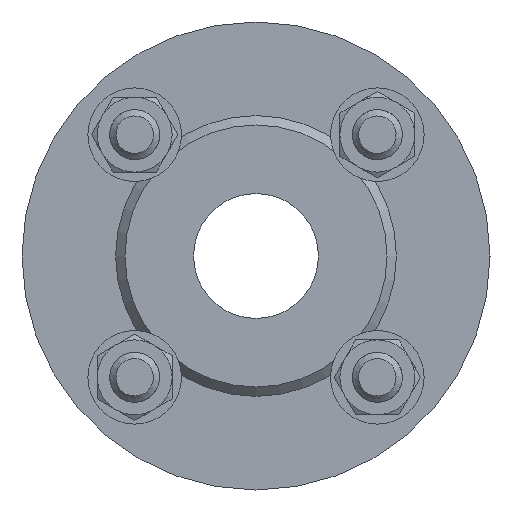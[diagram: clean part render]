
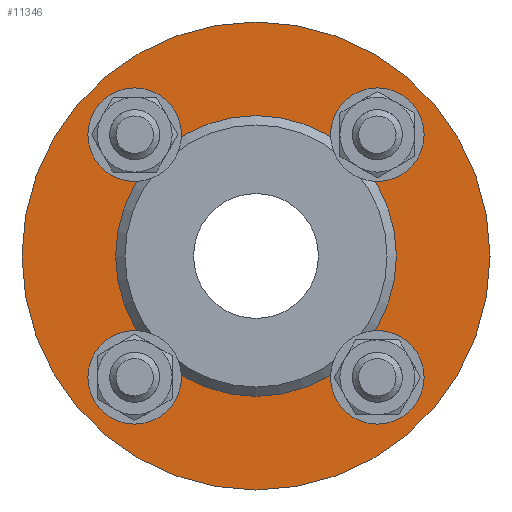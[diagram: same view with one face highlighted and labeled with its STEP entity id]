
A CAD part, left-side view. The second image highlights one B-rep face of the part: STEP entity #11346.
In plain terms, the highlighted planar face has unit normal (-1, 0, 0).
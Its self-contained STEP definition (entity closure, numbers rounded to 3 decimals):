
#11 = CARTESIAN_POINT ( 'NONE',  ( -10., -38.891, 30.891 ) ) ;
#300 = AXIS2_PLACEMENT_3D ( 'NONE', #9826, #10822, #7297 ) ;
#1073 = AXIS2_PLACEMENT_3D ( 'NONE', #12754, #4769, #9209 ) ;
#1228 = CARTESIAN_POINT ( 'NONE',  ( -10., 38.891, -38.891 ) ) ;
#1867 = EDGE_LOOP ( 'NONE', ( #2060 ) ) ;
#1942 = CARTESIAN_POINT ( 'NONE',  ( -10., 0., 0. ) ) ;
#2004 = FACE_BOUND ( 'NONE', #12693, .T. ) ;
#2060 = ORIENTED_EDGE ( 'NONE', *, *, #13817, .F. ) ;
#2185 = CARTESIAN_POINT ( 'NONE',  ( -10., -45., 0. ) ) ;
#2233 = DIRECTION ( 'NONE',  ( -1., 0., 0. ) ) ;
#2337 = CARTESIAN_POINT ( 'NONE',  ( -10., 38.891, 30.891 ) ) ;
#2673 = CARTESIAN_POINT ( 'NONE',  ( -10., 38.891, 38.891 ) ) ;
#2858 = AXIS2_PLACEMENT_3D ( 'NONE', #12651, #8954, #10337 ) ;
#3054 = DIRECTION ( 'NONE',  ( -1., 0., 0. ) ) ;
#3069 = EDGE_CURVE ( 'NONE', #11733, #11733, #5949, .T. ) ;
#3271 = EDGE_LOOP ( 'NONE', ( #7422 ) ) ;
#3309 = CIRCLE ( 'NONE', #8422, 45. ) ;
#3548 = VERTEX_POINT ( 'NONE', #2337 ) ;
#3619 = CARTESIAN_POINT ( 'NONE',  ( -10., -75., 0. ) ) ;
#3630 = AXIS2_PLACEMENT_3D ( 'NONE', #2673, #14382, #13313 ) ;
#3759 = EDGE_CURVE ( 'NONE', #3548, #3548, #10959, .T. ) ;
#4296 = DIRECTION ( 'NONE',  ( -1., 0., 0. ) ) ;
#4373 = CARTESIAN_POINT ( 'NONE',  ( -10., 38.891, -46.891 ) ) ;
#4453 = DIRECTION ( 'NONE',  ( 0., -1., 0. ) ) ;
#4769 = DIRECTION ( 'NONE',  ( -1., 0., 0. ) ) ;
#4843 = VERTEX_POINT ( 'NONE', #2185 ) ;
#5036 = EDGE_CURVE ( 'NONE', #4843, #4843, #3309, .T. ) ;
#5924 = EDGE_CURVE ( 'NONE', #7279, #7279, #13044, .T. ) ;
#5946 = ORIENTED_EDGE ( 'NONE', *, *, #3069, .T. ) ;
#5949 = CIRCLE ( 'NONE', #11085, 75. ) ;
#6734 = FACE_BOUND ( 'NONE', #11482, .T. ) ;
#7279 = VERTEX_POINT ( 'NONE', #14190 ) ;
#7297 = DIRECTION ( 'NONE',  ( 0., 0., -1. ) ) ;
#7422 = ORIENTED_EDGE ( 'NONE', *, *, #3759, .F. ) ;
#8111 = VERTEX_POINT ( 'NONE', #11 ) ;
#8177 = EDGE_LOOP ( 'NONE', ( #5946 ) ) ;
#8422 = AXIS2_PLACEMENT_3D ( 'NONE', #9006, #3054, #11229 ) ;
#8954 = DIRECTION ( 'NONE',  ( 1., 0., 0. ) ) ;
#8959 = VERTEX_POINT ( 'NONE', #4373 ) ;
#9006 = CARTESIAN_POINT ( 'NONE',  ( -10., 0., 0. ) ) ;
#9021 = EDGE_CURVE ( 'NONE', #8959, #8959, #13906, .T. ) ;
#9068 = EDGE_LOOP ( 'NONE', ( #13832 ) ) ;
#9209 = DIRECTION ( 'NONE',  ( 0., 0., -1. ) ) ;
#9256 = DIRECTION ( 'NONE',  ( 0., 0., -1. ) ) ;
#9826 = CARTESIAN_POINT ( 'NONE',  ( -10., -38.891, 38.891 ) ) ;
#9921 = ORIENTED_EDGE ( 'NONE', *, *, #9021, .F. ) ;
#9978 = AXIS2_PLACEMENT_3D ( 'NONE', #1228, #2233, #9256 ) ;
#10337 = DIRECTION ( 'NONE',  ( 0., 1., 0. ) ) ;
#10822 = DIRECTION ( 'NONE',  ( -1., 0., 0. ) ) ;
#10959 = CIRCLE ( 'NONE', #3630, 8. ) ;
#11085 = AXIS2_PLACEMENT_3D ( 'NONE', #1942, #4296, #4453 ) ;
#11229 = DIRECTION ( 'NONE',  ( 0., -1., 0. ) ) ;
#11346 = ADVANCED_FACE ( 'NONE', ( #2004, #6734, #11411, #13718, #12729, #13561 ), #14700, .F. ) ;
#11411 = FACE_BOUND ( 'NONE', #3271, .T. ) ;
#11482 = EDGE_LOOP ( 'NONE', ( #9921 ) ) ;
#11579 = ORIENTED_EDGE ( 'NONE', *, *, #5924, .F. ) ;
#11733 = VERTEX_POINT ( 'NONE', #3619 ) ;
#11774 = CIRCLE ( 'NONE', #300, 8. ) ;
#12651 = CARTESIAN_POINT ( 'NONE',  ( -10., 0., 75. ) ) ;
#12693 = EDGE_LOOP ( 'NONE', ( #11579 ) ) ;
#12729 = FACE_BOUND ( 'NONE', #9068, .T. ) ;
#12754 = CARTESIAN_POINT ( 'NONE',  ( -10., -38.891, -38.891 ) ) ;
#13044 = CIRCLE ( 'NONE', #1073, 8. ) ;
#13313 = DIRECTION ( 'NONE',  ( 0., 0., -1. ) ) ;
#13561 = FACE_OUTER_BOUND ( 'NONE', #8177, .T. ) ;
#13718 = FACE_BOUND ( 'NONE', #1867, .T. ) ;
#13817 = EDGE_CURVE ( 'NONE', #8111, #8111, #11774, .T. ) ;
#13832 = ORIENTED_EDGE ( 'NONE', *, *, #5036, .F. ) ;
#13906 = CIRCLE ( 'NONE', #9978, 8. ) ;
#14190 = CARTESIAN_POINT ( 'NONE',  ( -10., -38.891, -46.891 ) ) ;
#14382 = DIRECTION ( 'NONE',  ( -1., 0., 0. ) ) ;
#14700 = PLANE ( 'NONE',  #2858 ) ;
